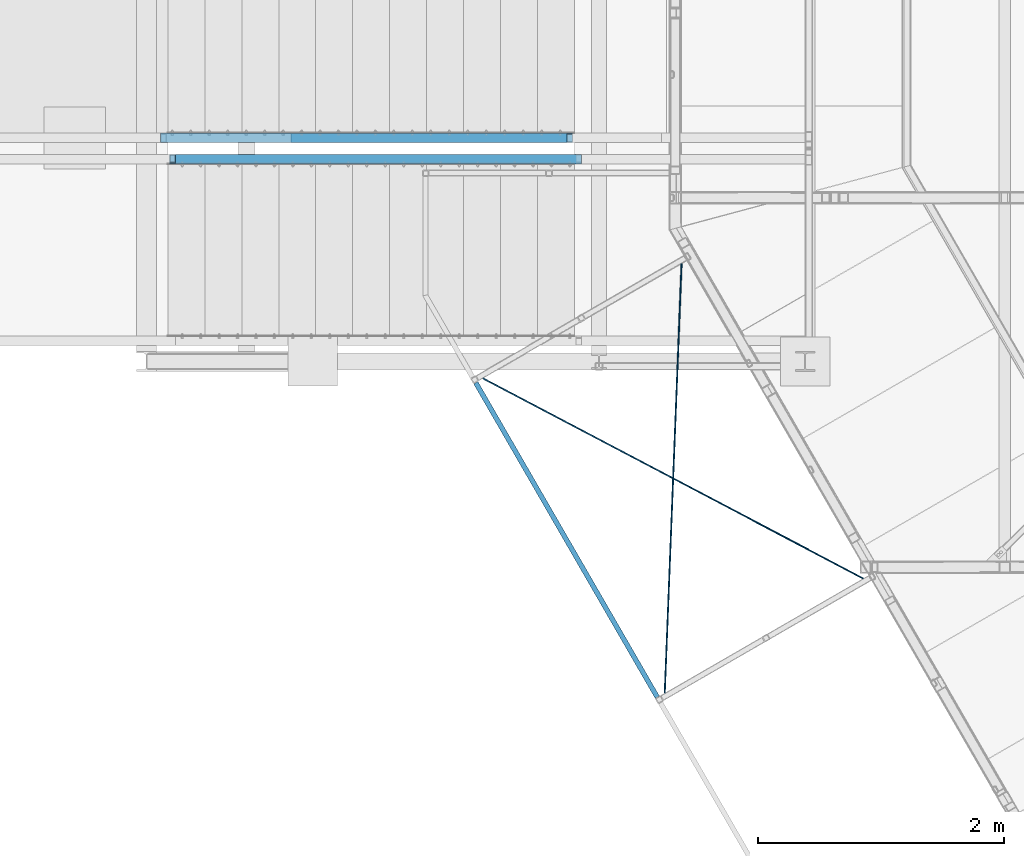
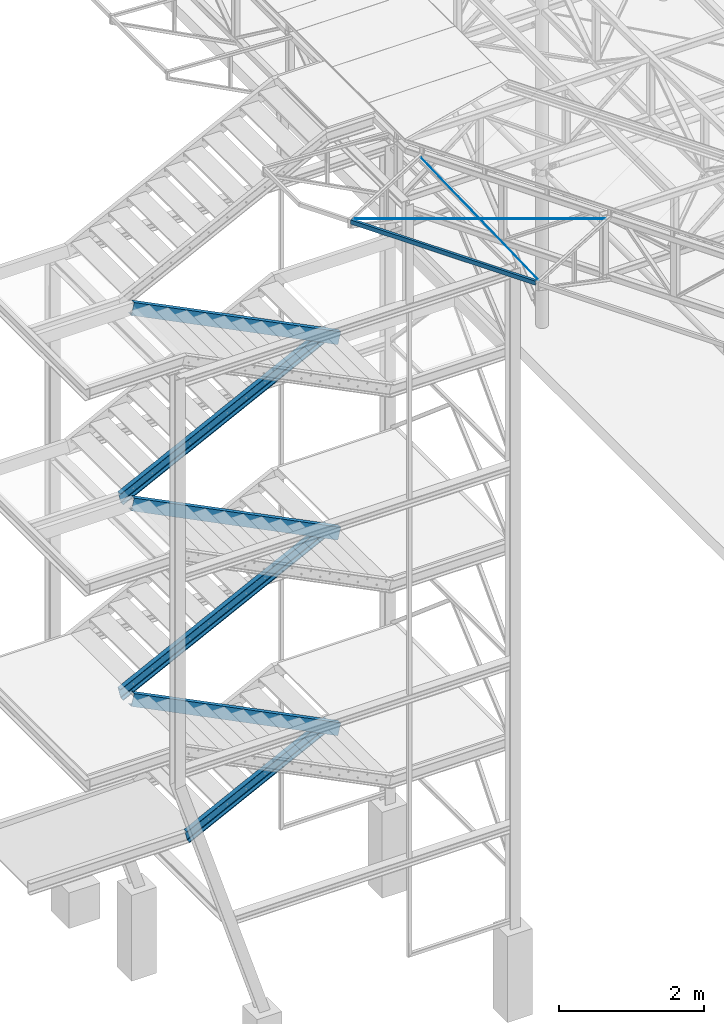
# One storey, part 5 of 132: 6 members, 3 beams, 9 elements without a shape of their own.
"""IFC2X3 building model written with IfcOpenShell, lengths in millimetres."""

from ifc_helpers import new_model, si_unit, frame, origin_with_axes, origin_2d_with_axis, place, context, subcontext, project, spatial, circle, u_section, extrude, clip, halfspace, material, type_object, element, aggregate, save


model = new_model("IFC2X3")

# Units and contexts
model_context = context("Model", 3, precision=1e-05, world=origin_with_axes())
body_context = subcontext(model_context, "Body", "Model", "MODEL_VIEW")
ifc_project = project(units=[si_unit("LENGTHUNIT", "METRE", prefix="MILLI"), si_unit("AREAUNIT", "SQUARE_METRE"), si_unit("VOLUMEUNIT", "CUBIC_METRE"), si_unit("MASSUNIT", "GRAM", prefix="KILO"), si_unit("TIMEUNIT", "SECOND"), si_unit("PLANEANGLEUNIT", "RADIAN"), si_unit("SOLIDANGLEUNIT", "STERADIAN"), si_unit("THERMODYNAMICTEMPERATUREUNIT", "DEGREE_CELSIUS"), si_unit("LUMINOUSINTENSITYUNIT", "LUMEN")], contexts=[model_context])

# Site, building, storey
site_placement = place(None, origin_with_axes())
site = spatial("IfcSite", under=ifc_project, at=site_placement, Name="Budowa", CompositionType="ELEMENT")
building_placement = place(site_placement, origin_with_axes())
building = spatial("IfcBuilding", under=site, at=building_placement, Name="Undefined", CompositionType="ELEMENT")
storey_placement = place(building_placement, origin_with_axes())
storey = spatial("IfcBuildingStorey", under=building, at=storey_placement, Name="Undefined", CompositionType="ELEMENT", Elevation=0.0)

# Assembly, member
assembly_1_placement = place(storey_placement, origin_with_axes())
assembly_1 = element("IfcElementAssembly", 1, at=assembly_1_placement, inside=storey, Name="Steel Assembly", AssemblyPlace="NOTDEFINED", PredefinedType="RIGID_FRAME")
ifc_material = material(Name="STEEL/S235")
member_type = type_object("IfcMemberType", Name="UPN200", PredefinedType="NOTDEFINED")
member_1_placement = place(assembly_1_placement, frame((-804.721359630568, 9312.50000004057, 10610.5572808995), z_axis=(0.447213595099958, 0.0, 0.894427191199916), x_axis=(-0.894427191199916, 0.0, 0.447213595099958)))
member_1 = element("IfcMember", 2, at=member_1_placement, type_object=member_type, material=ifc_material, Name="BELKA", ObjectType="UPN200", context=body_context, shape_type="Clipping", body=[
    clip(clip(extrude(u_section(Depth=200.0, FlangeWidth=75.0, WebThickness=8.5, FlangeThickness=11.5, FilletRadius=11.5, EdgeRadius=6.0, at=origin_2d_with_axis()), frame((3798.89392931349, -1.81898940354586e-12, 0.0), z_axis=(-1.0, 0.0, 0.0), x_axis=(0.0, -1.0, 0.0)), (0.0, 0.0, 1.0), 3955.49), halfspace(frame((3689.51216612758, -37.5000000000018, 100.000000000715), z_axis=(-0.97324898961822, 0.0, 0.229752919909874), x_axis=(0.0, -1.0, 0.0)), True)), halfspace(frame((3.68811288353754e-06, -3.63797880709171e-12, 100.0), z_axis=(-0.97324898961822, 0.0, 0.229752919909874), x_axis=(0.0, -1.0, 0.0)), False)),
])
aggregate(assembly_1, [member_1])

assembly_2_placement = place(storey_placement, origin_with_axes())
assembly_2 = element("IfcElementAssembly", 3, at=assembly_2_placement, inside=storey, Name="Steel Assembly", AssemblyPlace="NOTDEFINED", PredefinedType="RIGID_FRAME")
member_2_placement = place(assembly_2_placement, frame((-4135.27864053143, 9487.50000004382, 8960.5572809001), z_axis=(-0.447213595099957, 0.0, 0.894427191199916), x_axis=(0.894427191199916, 0.0, 0.447213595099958)))
member_2 = element("IfcMember", 4, at=member_2_placement, type_object=member_type, material=ifc_material, Name="BELKA", ObjectType="UPN200", context=body_context, shape_type="Clipping", body=[
    clip(clip(extrude(u_section(Depth=200.0, FlangeWidth=75.0, WebThickness=8.5, FlangeThickness=11.5, FilletRadius=11.5, EdgeRadius=6.0, at=origin_2d_with_axis()), frame((3798.89392931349, -1.81898940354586e-12, 0.0), z_axis=(-1.0, 0.0, 0.0), x_axis=(0.0, -1.0, 0.0)), (0.0, 0.0, 1.0), 3955.49), halfspace(frame((3689.51216612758, -37.5000000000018, 100.000000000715), z_axis=(-0.97324898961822, 0.0, 0.229752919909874), x_axis=(0.0, -1.0, 0.0)), True)), halfspace(frame((3.68811288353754e-06, -3.63797880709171e-12, 100.0), z_axis=(-0.97324898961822, 0.0, 0.229752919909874), x_axis=(0.0, -1.0, 0.0)), False)),
])
aggregate(assembly_2, [member_2])

assembly_3_placement = place(storey_placement, origin_with_axes())
assembly_3 = element("IfcElementAssembly", 5, at=assembly_3_placement, inside=storey, Name="Steel Assembly", AssemblyPlace="NOTDEFINED", PredefinedType="RIGID_FRAME")
member_3_placement = place(assembly_3_placement, frame((-804.721359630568, 9312.50000004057, 7310.5572808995), z_axis=(0.447213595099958, 0.0, 0.894427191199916), x_axis=(-0.894427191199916, 0.0, 0.447213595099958)))
member_3 = element("IfcMember", 6, at=member_3_placement, type_object=member_type, material=ifc_material, Name="BELKA", ObjectType="UPN200", context=body_context, shape_type="Clipping", body=[
    clip(clip(extrude(u_section(Depth=200.0, FlangeWidth=75.0, WebThickness=8.5, FlangeThickness=11.5, FilletRadius=11.5, EdgeRadius=6.0, at=origin_2d_with_axis()), frame((3798.89392931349, -1.81898940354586e-12, 0.0), z_axis=(-1.0, 0.0, 0.0), x_axis=(0.0, -1.0, 0.0)), (0.0, 0.0, 1.0), 3955.49), halfspace(frame((3689.51216612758, -37.5000000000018, 100.000000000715), z_axis=(-0.97324898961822, 0.0, 0.229752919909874), x_axis=(0.0, -1.0, 0.0)), True)), halfspace(frame((3.68811288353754e-06, -3.63797880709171e-12, 100.0), z_axis=(-0.97324898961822, 0.0, 0.229752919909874), x_axis=(0.0, -1.0, 0.0)), False)),
])
aggregate(assembly_3, [member_3])

assembly_4_placement = place(storey_placement, origin_with_axes())
assembly_4 = element("IfcElementAssembly", 7, at=assembly_4_placement, inside=storey, Name="Steel Assembly", AssemblyPlace="NOTDEFINED", PredefinedType="RIGID_FRAME")
member_4_placement = place(assembly_4_placement, frame((-4135.27864053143, 9487.50000004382, 5660.5572809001), z_axis=(-0.447213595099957, 0.0, 0.894427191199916), x_axis=(0.894427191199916, 0.0, 0.447213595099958)))
member_4 = element("IfcMember", 8, at=member_4_placement, type_object=member_type, material=ifc_material, Name="BELKA", ObjectType="UPN200", context=body_context, shape_type="Clipping", body=[
    clip(clip(extrude(u_section(Depth=200.0, FlangeWidth=75.0, WebThickness=8.5, FlangeThickness=11.5, FilletRadius=11.5, EdgeRadius=6.0, at=origin_2d_with_axis()), frame((3798.89392931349, -1.81898940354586e-12, 0.0), z_axis=(-1.0, 0.0, 0.0), x_axis=(0.0, -1.0, 0.0)), (0.0, 0.0, 1.0), 3955.49), halfspace(frame((3689.51216612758, -37.5000000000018, 100.000000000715), z_axis=(-0.97324898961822, 0.0, 0.229752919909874), x_axis=(0.0, -1.0, 0.0)), True)), halfspace(frame((3.68811288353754e-06, -3.63797880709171e-12, 100.0), z_axis=(-0.97324898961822, 0.0, 0.229752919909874), x_axis=(0.0, -1.0, 0.0)), False)),
])
aggregate(assembly_4, [member_4])

assembly_5_placement = place(storey_placement, origin_with_axes())
assembly_5 = element("IfcElementAssembly", 9, at=assembly_5_placement, inside=storey, Name="Steel Assembly", AssemblyPlace="NOTDEFINED", PredefinedType="RIGID_FRAME")
member_5_placement = place(assembly_5_placement, frame((-804.721359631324, 9312.50000004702, 4010.55728089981), z_axis=(0.447213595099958, 0.0, 0.894427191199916), x_axis=(-0.894427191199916, 0.0, 0.447213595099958)))
member_5 = element("IfcMember", 10, at=member_5_placement, type_object=member_type, material=ifc_material, Name="BELKA", ObjectType="UPN200", context=body_context, shape_type="Clipping", body=[
    clip(clip(extrude(u_section(Depth=200.0, FlangeWidth=75.0, WebThickness=8.5, FlangeThickness=11.5, FilletRadius=11.5, EdgeRadius=6.0, at=origin_2d_with_axis()), frame((3798.89392931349, -1.81898940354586e-12, 0.0), z_axis=(-1.0, 0.0, 0.0), x_axis=(0.0, -1.0, 0.0)), (0.0, 0.0, 1.0), 3955.49), halfspace(frame((3689.51216612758, -37.5000000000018, 100.000000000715), z_axis=(-0.97324898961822, 0.0, 0.229752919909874), x_axis=(0.0, -1.0, 0.0)), True)), halfspace(frame((3.68811288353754e-06, -3.63797880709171e-12, 100.0), z_axis=(-0.97324898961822, 0.0, 0.229752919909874), x_axis=(0.0, -1.0, 0.0)), False)),
])
aggregate(assembly_5, [member_5])

assembly_6_placement = place(storey_placement, origin_with_axes())
assembly_6 = element("IfcElementAssembly", 11, at=assembly_6_placement, inside=storey, Name="Steel Assembly", AssemblyPlace="NOTDEFINED", PredefinedType="RIGID_FRAME")
member_6_placement = place(assembly_6_placement, frame((-3075.27864053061, 9487.50000004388, 2890.5572809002), z_axis=(-0.447213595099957, 0.0, 0.894427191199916), x_axis=(0.894427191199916, 0.0, 0.447213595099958)))
member_6 = element("IfcMember", 12, at=member_6_placement, type_object=member_type, material=ifc_material, Name="BELKA", ObjectType="UPN200", context=body_context, shape_type="Clipping", body=[
    clip(clip(extrude(u_section(Depth=200.0, FlangeWidth=75.0, WebThickness=8.5, FlangeThickness=11.5, FilletRadius=11.5, EdgeRadius=6.0, at=origin_2d_with_axis()), frame((2613.77789614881, -1.81898940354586e-12, 0.0), z_axis=(-1.0, 0.0, 0.0), x_axis=(0.0, -1.0, 0.0)), (0.0, 0.0, 1.0), 2770.37), halfspace(frame((2504.39613260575, -37.5000000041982, 100.000000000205), z_axis=(-0.97324898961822, 0.0, 0.229752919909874), x_axis=(0.0, -1.0, 0.0)), True)), halfspace(frame((3.68811288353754e-06, -3.63797880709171e-12, 100.0), z_axis=(-0.97324898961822, 0.0, 0.229752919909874), x_axis=(0.0, -1.0, 0.0)), False)),
])
aggregate(assembly_6, [member_6])

# Assembly, beam
assembly_7_placement = place(storey_placement, origin_with_axes())
assembly_7 = element("IfcElementAssembly", 13, at=assembly_7_placement, inside=storey, Name="Steel Assembly", AssemblyPlace="NOTDEFINED", PredefinedType="RIGID_FRAME")
beam_type_1 = type_object("IfcBeamType", Name="D10", PredefinedType="NOTDEFINED")
beam_1_placement = place(assembly_7_placement, frame((-1560.19927708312, 7532.44350814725, 13945.526950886), z_axis=(0.043248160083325, 0.0249672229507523, 0.998752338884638), x_axis=(0.884580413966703, -0.465624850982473, -0.0266643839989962)))
beam_1 = element("IfcBeam", 14, at=beam_1_placement, type_object=beam_type_1, material=ifc_material, Name="BEAM", ObjectType="D10", context=body_context, shape_type="SweptSolid", body=[
    extrude(circle(Radius=5.0, at=origin_2d_with_axis()), frame((3489.02120950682, 1.67199953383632e-13, 1.2104974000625e-14), z_axis=(-1.0, 0.0, 0.0), x_axis=(0.0, -1.0, 0.0)), (0.0, 0.0, 1.0), 3489.02),
])
aggregate(assembly_7, [beam_1])

assembly_8_placement = place(storey_placement, origin_with_axes())
assembly_8 = element("IfcElementAssembly", 15, at=assembly_8_placement, inside=storey, Name="Steel Assembly", AssemblyPlace="NOTDEFINED", PredefinedType="RIGID_FRAME")
beam_2_placement = place(assembly_8_placement, frame((-85.3133539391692, 4977.60270800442, 13945.528130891), z_axis=(0.043248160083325, 0.0249672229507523, 0.998752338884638), x_axis=(0.0391364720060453, 0.998878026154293, -0.0266650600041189)))
beam_2 = element("IfcBeam", 16, at=beam_2_placement, type_object=beam_type_1, material=ifc_material, Name="BEAM", ObjectType="D10", context=body_context, shape_type="SweptSolid", body=[
    extrude(circle(Radius=5.0, at=origin_2d_with_axis()), frame((3489.02120950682, 1.67199953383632e-13, 1.2104974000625e-14), z_axis=(-1.0, 0.0, 0.0), x_axis=(0.0, -1.0, 0.0)), (0.0, 0.0, 1.0), 3489.02),
])
aggregate(assembly_8, [beam_2])

assembly_9_placement = place(storey_placement, origin_with_axes())
assembly_9 = element("IfcElementAssembly", 17, at=assembly_9_placement, inside=storey, Name="Steel Assembly", AssemblyPlace="NOTDEFINED", PredefinedType="RIGID_FRAME")
beam_type_2 = type_object("IfcBeamType", Name="C70*40*4", PredefinedType="NOTDEFINED")
beam_3_placement = place(assembly_9_placement, frame((-1620.31409548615, 7497.73978058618, 13945.003838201), z_axis=(0.0, 0.0, -1.0), x_axis=(0.499961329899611, -0.866047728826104, 3.99999999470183e-07)))
beam_3 = element("IfcBeam", 18, at=beam_3_placement, type_object=beam_type_2, material=ifc_material, Name="BEAM", ObjectType="C70*40*4", context=body_context, shape_type="SweptSolid", body=[
    extrude(u_section(Depth=70.0, FlangeWidth=40.0, WebThickness=4.0, FlangeThickness=4.0, FilletRadius=6.0, at=origin_2d_with_axis()), frame((2949.99999995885, 1.63757896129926e-13, 0.0), z_axis=(-1.0, 0.0, 0.0), x_axis=(0.0, -1.0, 0.0)), (0.0, 0.0, 1.0), 2950.0),
])
aggregate(assembly_9, [beam_3])

save(model, "model.ifc")
